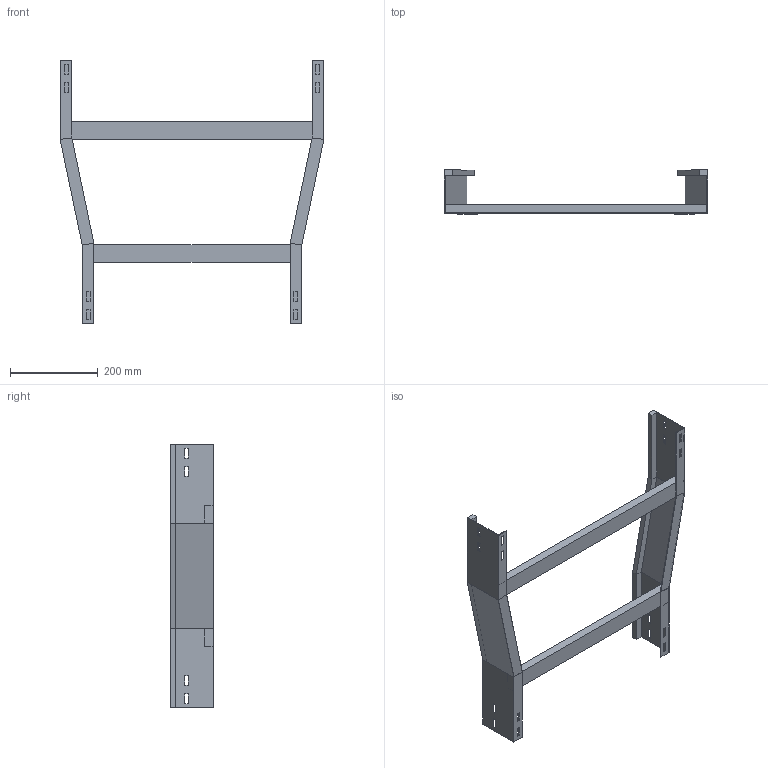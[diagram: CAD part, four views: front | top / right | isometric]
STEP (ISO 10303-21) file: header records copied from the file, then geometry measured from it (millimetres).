
FILE_DESCRIPTION (( 'STEP AP214' ), '1' );
FILE_NAME ('B2X20B5D600XX.step', '2025-09-02T17:14:49', ( '' ), ( '' ), 'SwSTEP 2.0', 'SolidWorks 2023', '' );
FILE_SCHEMA (( 'AUTOMOTIVE_DESIGN' ));
Length unit declared in the file: millimetre
Products named in the file (4): TRAVERSINO_500; SPONDA RID. CENTRALE 600-500_H100; B2X20B5D600XX; TRAVERSINO_600
Assembly tree (3 placements, depth 2):
  B2X20B5D600XX
    SPONDA RID. CENTRALE 600-500_H100
    TRAVERSINO_500
    TRAVERSINO_600
Bounding box: 600 x 100 x 600 mm (x, y, z)
Volume: 1414547.3 mm3; surface area: 480215.5 mm2
Topology: 4 solids, 4 shells, 128 faces, 328 edges, 208 vertices
Faces by surface type: plane 128
Entity records: 3950 total; most frequent: CARTESIAN_POINT 670, ORIENTED_EDGE 656, DIRECTION 596, EDGE_CURVE 328, LINE 328, VECTOR 328, VERTEX_POINT 208, EDGE_LOOP 160
